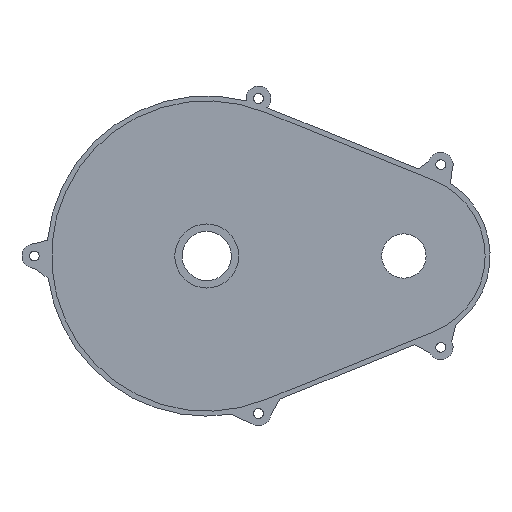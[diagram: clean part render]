
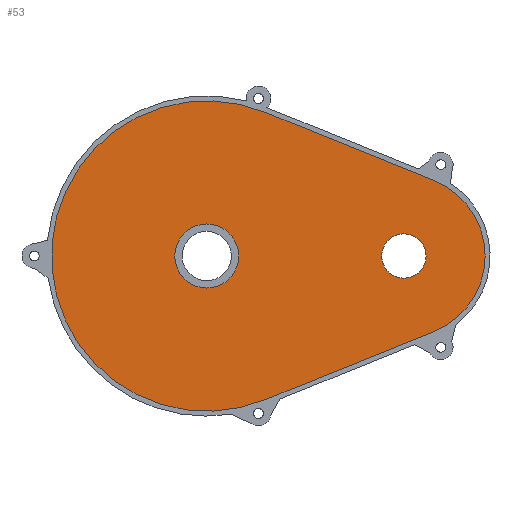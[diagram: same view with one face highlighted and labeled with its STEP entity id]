
A CAD part, front view. The second image highlights one B-rep face of the part: STEP entity #53.
In plain terms, the highlighted planar face has unit normal (0, -1, 0).
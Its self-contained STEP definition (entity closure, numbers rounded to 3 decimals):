
#53=ADVANCED_FACE('',(#95,#97,#99),#101,.T.);
#95=FACE_BOUND('',#96,.T.);
#96=EDGE_LOOP('',(#453,#454,#455,#456));
#97=FACE_BOUND('',#98,.T.);
#98=EDGE_LOOP('',(#457));
#99=FACE_BOUND('',#100,.T.);
#100=EDGE_LOOP('',(#458));
#101=PLANE('',#102);
#102=AXIS2_PLACEMENT_3D('',#103,#104,#105);
#103=CARTESIAN_POINT('',(0.,-42.,0.));
#104=DIRECTION('',(0.,-1.,0.));
#105=DIRECTION('',(1.,0.,0.));
#453=ORIENTED_EDGE('',*,*,#633,.F.);
#454=ORIENTED_EDGE('',*,*,#634,.F.);
#455=ORIENTED_EDGE('',*,*,#635,.F.);
#456=ORIENTED_EDGE('',*,*,#636,.F.);
#457=ORIENTED_EDGE('',*,*,#637,.T.);
#458=ORIENTED_EDGE('',*,*,#638,.F.);
#633=EDGE_CURVE('',#723,#724,#725,.F.);
#634=EDGE_CURVE('',#726,#723,#727,.F.);
#635=EDGE_CURVE('',#728,#726,#729,.F.);
#636=EDGE_CURVE('',#724,#728,#730,.F.);
#637=EDGE_CURVE('',#731,#731,#732,.F.);
#638=EDGE_CURVE('',#733,#733,#734,.T.);
#723=VERTEX_POINT('',#881);
#724=VERTEX_POINT('',#882);
#725=LINE('',#883,#884);
#726=VERTEX_POINT('',#886);
#727=CIRCLE('',#887,33.);
#728=VERTEX_POINT('',#891);
#729=LINE('',#892,#893);
#730=CIRCLE('',#895,63.);
#731=VERTEX_POINT('',#899);
#732=CIRCLE('',#900,9.);
#733=VERTEX_POINT('',#904);
#734=CIRCLE('',#905,13.);
#881=CARTESIAN_POINT('',(12.375,-42.,-30.592));
#882=CARTESIAN_POINT('',(-56.375,-42.,-58.403));
#883=CARTESIAN_POINT('',(-56.375,-42.,-58.403));
#884=VECTOR('',#885,1.);
#885=DIRECTION('',(0.927,0.,0.375));
#886=CARTESIAN_POINT('',(12.375,-42.,30.592));
#887=AXIS2_PLACEMENT_3D('',#888,#889,#890);
#888=CARTESIAN_POINT('',(0.,-42.,0.));
#889=DIRECTION('',(0.,-1.,0.));
#890=DIRECTION('',(0.375,0.,-0.927));
#891=CARTESIAN_POINT('',(-56.375,-42.,58.403));
#892=CARTESIAN_POINT('',(12.375,-42.,30.592));
#893=VECTOR('',#894,1.);
#894=DIRECTION('',(-0.927,0.,0.375));
#895=AXIS2_PLACEMENT_3D('',#896,#897,#898);
#896=CARTESIAN_POINT('',(-80.,-42.,0.));
#897=DIRECTION('',(0.,-1.,0.));
#898=DIRECTION('',(0.375,0.,0.927));
#899=CARTESIAN_POINT('',(-9.,-42.,0.));
#900=AXIS2_PLACEMENT_3D('',#901,#902,#903);
#901=CARTESIAN_POINT('',(0.,-42.,0.));
#902=DIRECTION('',(0.,-1.,0.));
#903=DIRECTION('',(-1.,0.,0.));
#904=CARTESIAN_POINT('',(-67.,-42.,0.));
#905=AXIS2_PLACEMENT_3D('',#906,#907,#908);
#906=CARTESIAN_POINT('',(-80.,-42.,0.));
#907=DIRECTION('',(0.,-1.,0.));
#908=DIRECTION('',(1.,0.,0.));
